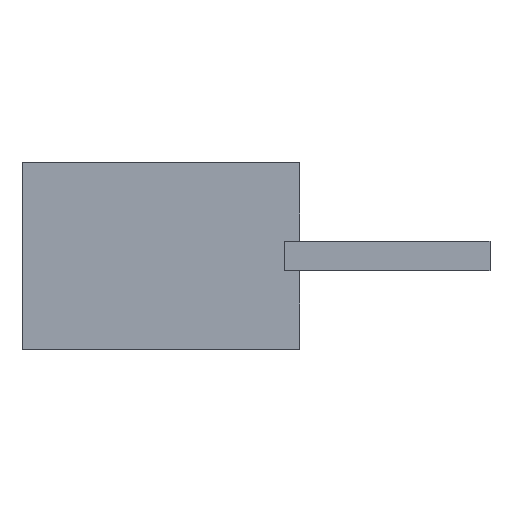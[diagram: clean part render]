
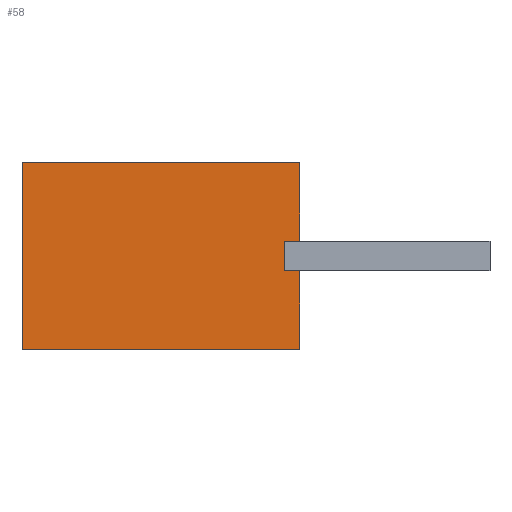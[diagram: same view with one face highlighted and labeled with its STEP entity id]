
A CAD part, top view. The second image highlights one B-rep face of the part: STEP entity #58.
In plain terms, the highlighted planar face has unit normal (0, 0, 1).
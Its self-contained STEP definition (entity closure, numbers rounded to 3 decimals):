
#58=ADVANCED_FACE('',(#166),#168,.T.);
#166=FACE_BOUND('',#167,.T.);
#167=EDGE_LOOP('',(#250,#251,#252,#253,#254,#255,#256,#257));
#168=PLANE('',#169);
#169=AXIS2_PLACEMENT_3D('',#170,#171,#172);
#170=CARTESIAN_POINT('',(0.,0.,1.));
#171=DIRECTION('',(0.,0.,1.));
#172=DIRECTION('',(-1.,0.,0.));
#250=ORIENTED_EDGE('',*,*,#306,.F.);
#251=ORIENTED_EDGE('',*,*,#307,.F.);
#252=ORIENTED_EDGE('',*,*,#308,.T.);
#253=ORIENTED_EDGE('',*,*,#309,.T.);
#254=ORIENTED_EDGE('',*,*,#310,.T.);
#255=ORIENTED_EDGE('',*,*,#311,.T.);
#256=ORIENTED_EDGE('',*,*,#312,.T.);
#257=ORIENTED_EDGE('',*,*,#313,.F.);
#306=EDGE_CURVE('',#334,#335,#336,.T.);
#307=EDGE_CURVE('',#337,#334,#338,.T.);
#308=EDGE_CURVE('',#337,#339,#340,.T.);
#309=EDGE_CURVE('',#339,#341,#342,.T.);
#310=EDGE_CURVE('',#341,#343,#344,.T.);
#311=EDGE_CURVE('',#343,#345,#346,.T.);
#312=EDGE_CURVE('',#345,#347,#348,.T.);
#313=EDGE_CURVE('',#335,#347,#349,.T.);
#334=VERTEX_POINT('',#380);
#335=VERTEX_POINT('',#381);
#336=LINE('',#382,#383);
#337=VERTEX_POINT('',#385);
#338=LINE('',#386,#387);
#339=VERTEX_POINT('',#389);
#340=LINE('',#390,#391);
#341=VERTEX_POINT('',#393);
#342=LINE('',#394,#395);
#343=VERTEX_POINT('',#397);
#344=LINE('',#398,#399);
#345=VERTEX_POINT('',#401);
#346=LINE('',#402,#403);
#347=VERTEX_POINT('',#405);
#348=LINE('',#406,#407);
#349=LINE('',#409,#410);
#380=CARTESIAN_POINT('',(4.235,0.5,1.));
#381=CARTESIAN_POINT('',(4.235,-0.5,1.));
#382=CARTESIAN_POINT('',(4.235,0.5,1.));
#383=VECTOR('',#384,1.);
#384=DIRECTION('',(0.,-1.,0.));
#385=CARTESIAN_POINT('',(4.75,0.5,1.));
#386=CARTESIAN_POINT('',(4.75,0.5,1.));
#387=VECTOR('',#388,1.);
#388=DIRECTION('',(-1.,0.,0.));
#389=CARTESIAN_POINT('',(4.75,3.2,1.));
#390=CARTESIAN_POINT('',(4.75,0.5,1.));
#391=VECTOR('',#392,1.);
#392=DIRECTION('',(0.,1.,0.));
#393=CARTESIAN_POINT('',(-4.75,3.2,1.));
#394=CARTESIAN_POINT('',(4.75,3.2,1.));
#395=VECTOR('',#396,1.);
#396=DIRECTION('',(-1.,0.,0.));
#397=CARTESIAN_POINT('',(-4.75,-3.2,1.));
#398=CARTESIAN_POINT('',(-4.75,3.2,1.));
#399=VECTOR('',#400,1.);
#400=DIRECTION('',(0.,-1.,0.));
#401=CARTESIAN_POINT('',(4.75,-3.2,1.));
#402=CARTESIAN_POINT('',(-4.75,-3.2,1.));
#403=VECTOR('',#404,1.);
#404=DIRECTION('',(1.,0.,0.));
#405=CARTESIAN_POINT('',(4.75,-0.5,1.));
#406=CARTESIAN_POINT('',(4.75,-3.2,1.));
#407=VECTOR('',#408,1.);
#408=DIRECTION('',(0.,1.,0.));
#409=CARTESIAN_POINT('',(4.235,-0.5,1.));
#410=VECTOR('',#411,1.);
#411=DIRECTION('',(1.,0.,0.));
